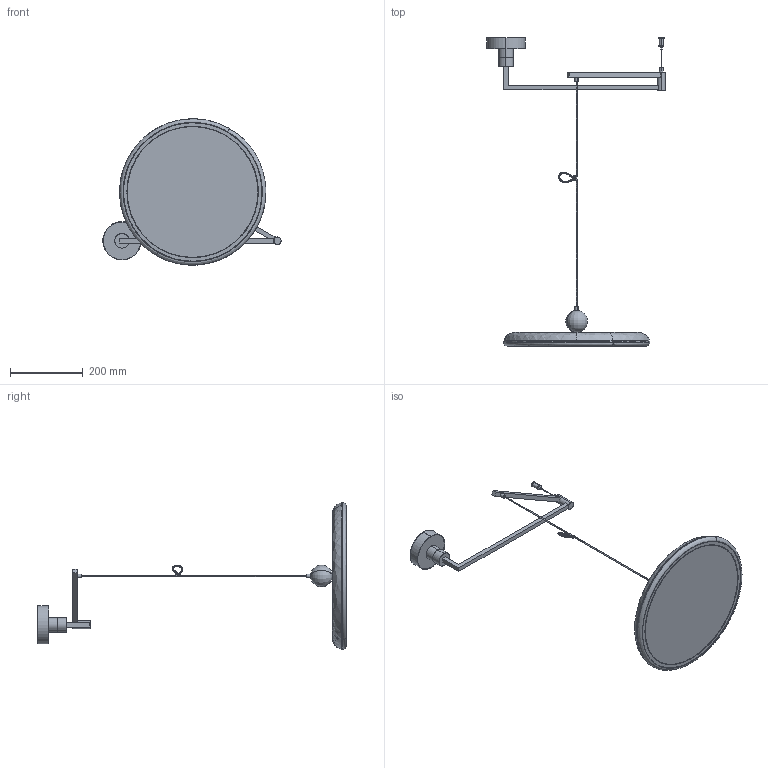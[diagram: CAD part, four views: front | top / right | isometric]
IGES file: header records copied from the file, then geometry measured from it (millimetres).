
Start section: SolidWorks IGES file using analytic representation for surfaces
Global section: file name: F:\燠隴矨\3D\2024-10堎\Tizio Pendant Lamp.IGS; native system: SolidWorks 2022; preprocessor: SolidWorks 2022; author: MyPC; date: 241003.205737; units: millimetre
Bounding box: 489.52 x 847.48 x 402.02 mm (x, y, z)
Surface area: 668676 mm2 (no closed solid volume)
Topology: 0 solids, 0 shells, 97 faces, 1969 edges, 1967 vertices
Faces by surface type: bspline 57, revolution 40
